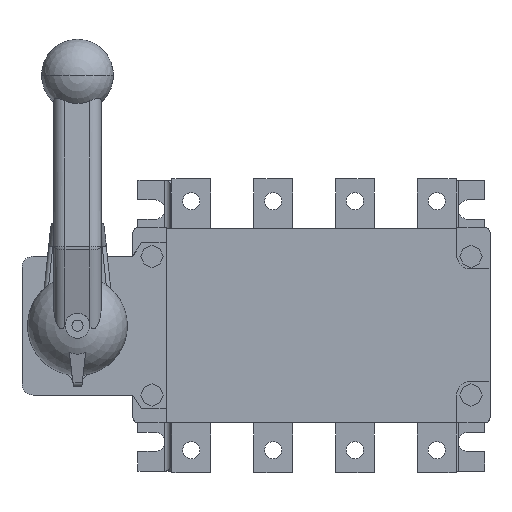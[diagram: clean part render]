
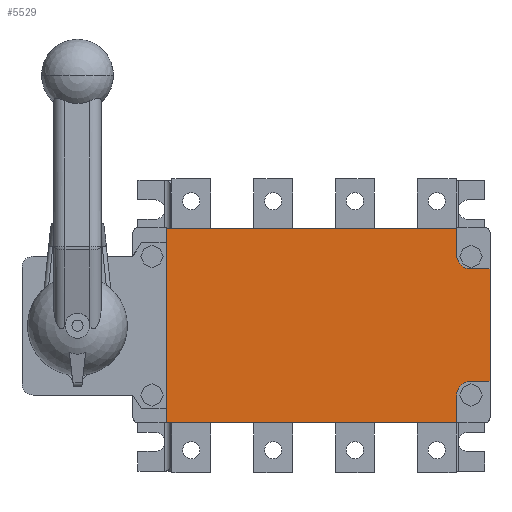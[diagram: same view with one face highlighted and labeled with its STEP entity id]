
A CAD part, front view. The second image highlights one B-rep face of the part: STEP entity #5529.
In plain terms, the highlighted planar face has unit normal (0, -1, 0).
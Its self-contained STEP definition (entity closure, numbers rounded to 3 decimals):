
#297=DIRECTION('',(1.,0.,0.));
#298=VECTOR('',#297,104.76);
#299=CARTESIAN_POINT('',(-52.38,0.,-35.));
#300=LINE('',#299,#298);
#395=DIRECTION('',(-1.,0.,0.));
#396=VECTOR('',#395,104.76);
#397=CARTESIAN_POINT('',(52.38,0.,35.));
#398=LINE('',#397,#396);
#453=DIRECTION('',(0.,0.,1.));
#454=VECTOR('',#453,40.491);
#455=CARTESIAN_POINT('',(64.38,0.,-20.));
#456=LINE('',#455,#454);
#523=CARTESIAN_POINT('',(57.38,0.,-25.));
#524=DIRECTION('',(0.,-1.,0.));
#525=DIRECTION('',(0.,0.,1.));
#526=AXIS2_PLACEMENT_3D('',#523,#524,#525);
#528=DIRECTION('',(0.,0.,-1.));
#529=VECTOR('',#528,10.);
#530=CARTESIAN_POINT('',(52.38,0.,-25.));
#531=LINE('',#530,#529);
#532=CARTESIAN_POINT('',(-57.38,0.,-25.));
#533=DIRECTION('',(0.,-1.,0.));
#534=DIRECTION('',(1.,0.,0.));
#535=AXIS2_PLACEMENT_3D('',#532,#533,#534);
#537=DIRECTION('',(-1.,0.,0.));
#538=VECTOR('',#537,7.);
#539=CARTESIAN_POINT('',(-57.38,0.,-20.));
#540=LINE('',#539,#538);
#541=CARTESIAN_POINT('',(-57.38,0.,25.491));
#542=DIRECTION('',(0.,-1.,0.));
#543=DIRECTION('',(0.,0.,-1.));
#544=AXIS2_PLACEMENT_3D('',#541,#542,#543);
#546=DIRECTION('',(0.,0.,1.));
#547=VECTOR('',#546,9.509);
#548=CARTESIAN_POINT('',(-52.38,0.,25.491));
#549=LINE('',#548,#547);
#550=CARTESIAN_POINT('',(57.38,0.,25.491));
#551=DIRECTION('',(0.,-1.,0.));
#552=DIRECTION('',(-1.,0.,0.));
#553=AXIS2_PLACEMENT_3D('',#550,#551,#552);
#555=DIRECTION('',(1.,0.,0.));
#556=VECTOR('',#555,7.);
#557=CARTESIAN_POINT('',(57.38,0.,20.491));
#558=LINE('',#557,#556);
#559=DIRECTION('',(1.,0.,0.));
#560=VECTOR('',#559,7.);
#561=CARTESIAN_POINT('',(57.38,0.,-20.));
#562=LINE('',#561,#560);
#587=DIRECTION('',(0.,0.,-1.));
#588=VECTOR('',#587,10.);
#589=CARTESIAN_POINT('',(-52.38,0.,-25.));
#590=LINE('',#589,#588);
#646=DIRECTION('',(0.,0.,-1.));
#647=VECTOR('',#646,40.491);
#648=CARTESIAN_POINT('',(-64.38,0.,20.491));
#649=LINE('',#648,#647);
#2774=DIRECTION('',(-1.,0.,0.));
#2775=VECTOR('',#2774,7.);
#2776=CARTESIAN_POINT('',(-57.38,0.,20.491));
#2777=LINE('',#2776,#2775);
#2830=DIRECTION('',(0.,0.,1.));
#2831=VECTOR('',#2830,9.509);
#2832=CARTESIAN_POINT('',(52.38,0.,25.491));
#2833=LINE('',#2832,#2831);
#4225=CARTESIAN_POINT('',(-52.38,0.,35.));
#4226=VERTEX_POINT('',#4225);
#4231=CARTESIAN_POINT('',(-64.38,0.,20.491));
#4232=VERTEX_POINT('',#4231);
#4233=CARTESIAN_POINT('',(-64.38,0.,-20.));
#4234=VERTEX_POINT('',#4233);
#4315=CARTESIAN_POINT('',(-52.38,0.,25.491));
#4316=VERTEX_POINT('',#4315);
#4317=CARTESIAN_POINT('',(-52.38,0.,-25.));
#4318=VERTEX_POINT('',#4317);
#4319=CARTESIAN_POINT('',(-52.38,0.,-35.));
#4320=VERTEX_POINT('',#4319);
#4321=CARTESIAN_POINT('',(57.38,0.,-20.));
#4322=CARTESIAN_POINT('',(64.38,0.,-20.));
#4323=VERTEX_POINT('',#4321);
#4324=VERTEX_POINT('',#4322);
#4325=CARTESIAN_POINT('',(52.38,0.,-25.));
#4326=VERTEX_POINT('',#4325);
#4327=CARTESIAN_POINT('',(52.38,0.,-35.));
#4328=VERTEX_POINT('',#4327);
#4329=CARTESIAN_POINT('',(-57.38,0.,-20.));
#4330=VERTEX_POINT('',#4329);
#4331=CARTESIAN_POINT('',(-57.38,0.,20.491));
#4332=VERTEX_POINT('',#4331);
#4333=CARTESIAN_POINT('',(52.38,0.,35.));
#4334=VERTEX_POINT('',#4333);
#4335=CARTESIAN_POINT('',(52.38,0.,25.491));
#4336=VERTEX_POINT('',#4335);
#4337=CARTESIAN_POINT('',(57.38,0.,20.491));
#4338=VERTEX_POINT('',#4337);
#4339=CARTESIAN_POINT('',(64.38,0.,20.491));
#4340=VERTEX_POINT('',#4339);
#5494=CARTESIAN_POINT('',(0.,0.,0.));
#5495=DIRECTION('',(0.,1.,0.));
#5496=DIRECTION('',(1.,0.,0.));
#5497=AXIS2_PLACEMENT_3D('',#5494,#5495,#5496);
#5498=PLANE('',#5497);
#5500=ORIENTED_EDGE('',*,*,#5499,.F.);
#5502=ORIENTED_EDGE('',*,*,#5501,.T.);
#5503=ORIENTED_EDGE('',*,*,#5485,.T.);
#5504=ORIENTED_EDGE('',*,*,#5228,.F.);
#5506=ORIENTED_EDGE('',*,*,#5505,.F.);
#5508=ORIENTED_EDGE('',*,*,#5507,.T.);
#5510=ORIENTED_EDGE('',*,*,#5509,.T.);
#5512=ORIENTED_EDGE('',*,*,#5511,.F.);
#5514=ORIENTED_EDGE('',*,*,#5513,.F.);
#5516=ORIENTED_EDGE('',*,*,#5515,.T.);
#5518=ORIENTED_EDGE('',*,*,#5517,.T.);
#5519=ORIENTED_EDGE('',*,*,#5345,.F.);
#5521=ORIENTED_EDGE('',*,*,#5520,.F.);
#5523=ORIENTED_EDGE('',*,*,#5522,.T.);
#5525=ORIENTED_EDGE('',*,*,#5524,.T.);
#5526=ORIENTED_EDGE('',*,*,#5433,.F.);
#5527=EDGE_LOOP('',(#5500,#5502,#5503,#5504,#5506,#5508,#5510,#5512,#5514,#5516,
#5518,#5519,#5521,#5523,#5525,#5526));
#5528=FACE_OUTER_BOUND('',#5527,.F.);
#527=CIRCLE('',#526,5.);
#536=CIRCLE('',#535,5.);
#545=CIRCLE('',#544,5.);
#554=CIRCLE('',#553,5.);
#5228=EDGE_CURVE('',#4320,#4328,#300,.T.);
#5345=EDGE_CURVE('',#4334,#4226,#398,.T.);
#5433=EDGE_CURVE('',#4324,#4340,#456,.T.);
#5485=EDGE_CURVE('',#4326,#4328,#531,.T.);
#5499=EDGE_CURVE('',#4323,#4324,#562,.T.);
#5501=EDGE_CURVE('',#4323,#4326,#527,.T.);
#5505=EDGE_CURVE('',#4318,#4320,#590,.T.);
#5507=EDGE_CURVE('',#4318,#4330,#536,.T.);
#5509=EDGE_CURVE('',#4330,#4234,#540,.T.);
#5511=EDGE_CURVE('',#4232,#4234,#649,.T.);
#5513=EDGE_CURVE('',#4332,#4232,#2777,.T.);
#5515=EDGE_CURVE('',#4332,#4316,#545,.T.);
#5517=EDGE_CURVE('',#4316,#4226,#549,.T.);
#5520=EDGE_CURVE('',#4336,#4334,#2833,.T.);
#5522=EDGE_CURVE('',#4336,#4338,#554,.T.);
#5524=EDGE_CURVE('',#4338,#4340,#558,.T.);
#5529=ADVANCED_FACE('',(#5528),#5498,.F.);
